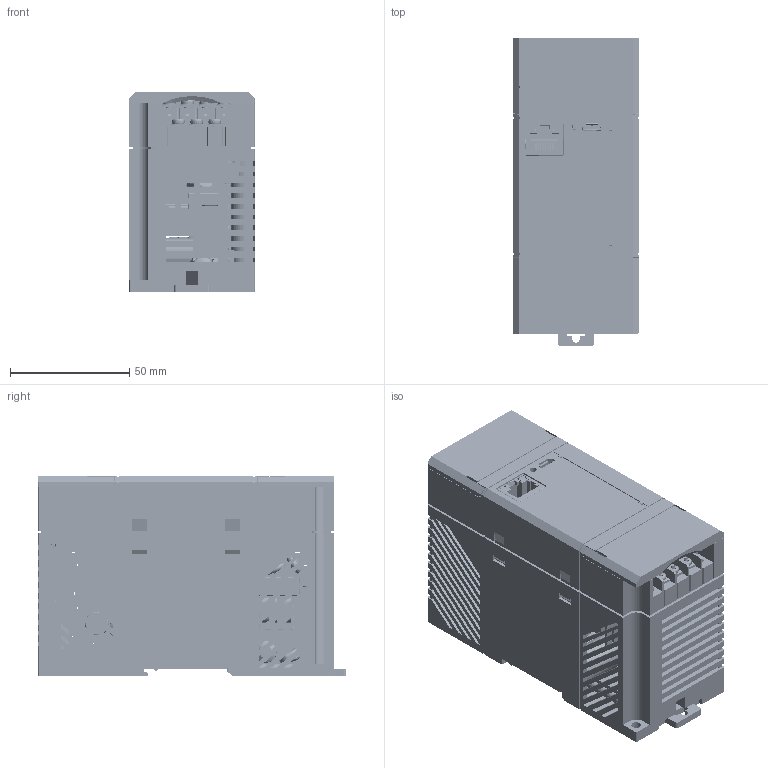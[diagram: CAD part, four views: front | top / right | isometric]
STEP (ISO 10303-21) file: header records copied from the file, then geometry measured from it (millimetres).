
FILE_DESCRIPTION(('STEP AP214'), '1');
FILE_NAME('ÊÓÂÔ.436534.052 (Áëîê ïèòàíèÿ ÁÏ30ÌÑ)', '', ('UNSPECIFIED'), ('UNSPECIFIED'), 'C3D Converter', 'C3D Toolkit', '');
FILE_SCHEMA(('AUTOMOTIVE_DESIGN { 1 0 10303 214 3 1 1}'));
Length unit declared in the file: millimetre
Products named in the file (509): КУВФ.436534.052; КУВФ.301152.320.3184; КУВФ.302615.410.1653; КУВФ.731142.420.2295; КУВФ.731394.420.1491; КУВФ.301152.410.2145; КУВФ.731123.420.2489; КУВФ.755755.420.2168; КУВФ.311.301; IPD70P01; Board; Open CASCADE STEP translator 6.8 1.1.1; R76; 1608(0603); R70; DA1; 6619621296; Open_CASCADE_STEP_translator_6.8_3.1; Body; Open_CASCADE_STEP_translator_6.8_3.2.1; Leader; TV1; ТИУ4,5_-ГС; Каракас_Џ甠г玕X2\0437\X0\牠Ёо; Магнитопровод_Џ甠г玕X2\0437\X0\牠Ёо; C35; 0805(2013); поз.4; D03PA(HEATSINK); поз.2; C54; JY_9A; C53; VD8; User_Library-SDIP; C32; JY-17; part1; C19; C_145X35L75V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
Assembly tree (776 placements, depth 7):
  КУВФ.436534.052
    КУВФ.301152.320.3184
      КУВФ.302615.410.1653
        КУВФ.731142.420.2295
        КУВФ.731394.420.1491
      КУВФ.301152.410.2145
        КУВФ.731123.420.2489
        КУВФ.755755.420.2168  x2
    КУВФ.311.301
      IPD70P01
        Board
          Open CASCADE STEP translator 6.8 1.1.1
        R76
          1608(0603)
        R70
          1608(0603)
        DA1
          6619621296
            Open_CASCADE_STEP_translator_6.8_3.1
            Body
              Open_CASCADE_STEP_translator_6.8_3.2.1
            Leader  x8
        TV1
          ТИУ4,5_-ГС
            Каракас_Џ甠г玕X2\0437\X0\牠Ёо
            Магнитопровод_Џ甠г玕X2\0437\X0\牠Ёо  x2
        C35
          0805(2013)
        поз.4
          D03PA(HEATSINK)
        поз.2
          D03PA(HEATSINK)
        C54
          JY_9A
        C53
          JY_9A
        VD8
          User_Library-SDIP
        C32
          JY-17
            part1  x2
        C19
          C_145X35L75V
        VT8
          TO-220AB_vertical1_3.125
        VT7
          SOT23A
        VT4
          User_Library-TO252AA
        R69
          RC0805
        R68
          RC2512
        R65
          RC0805
        R15
          1608(0603)
        R14
          1608(0603)
        L5
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Bounding box: 52.58 x 129.26 x 83.85 mm (x, y, z)
Volume: 165087.2 mm3; surface area: 203035.1 mm2
Topology: 882 solids, 921 shells, 39683 faces, 108163 edges, 70285 vertices
Faces by surface type: plane 20876, bspline 8990, cylinder 7724, sphere 1745, cone 164, torus 163, revolution 21
Full cylindrical faces by diameter (mm): 0.195 x3, 0.5 x4, 0.535 x4, 0.6 x43, 0.65 x8, 0.7 x2, 0.75 x2, 0.8 x20, 0.85 x22, 0.9 x37, 1 x17, 1.05 x21, 1.1 x7, 1.2 x5, 1.25 x6, 1.4 x3, 1.45 x8, 1.5 x1, 1.6 x10, 1.605 x14, 1.7 x2, 1.85 x2, 2.2 x4, 2.459 x14, 2.6 x5, 3 x18, 3.2 x18, 3.3 x4, 3.4 x14, 3.5 x2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
Entity records: 695412 total; most frequent: CARTESIAN_POINT 198214, ORIENTED_EDGE 78193, DIRECTION 63895, EDGE_CURVE 39132, VERTEX_POINT 25700, LINE 25383, VECTOR 25383, AXIS2_PLACEMENT_3D 19252
